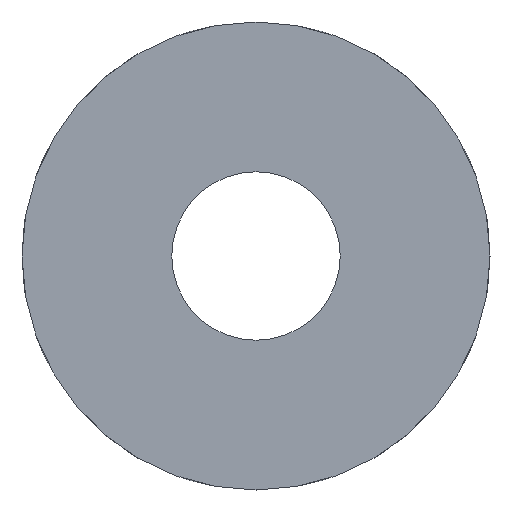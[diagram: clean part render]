
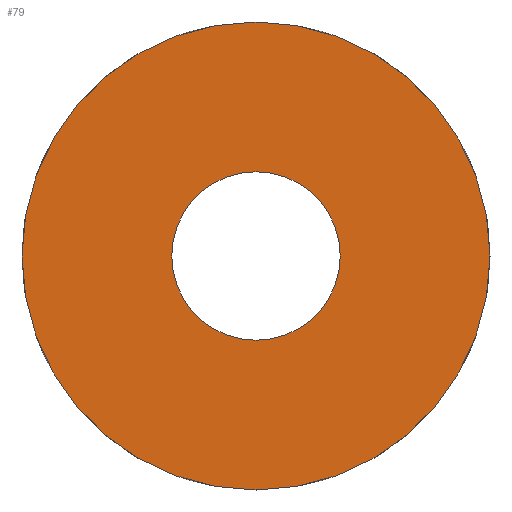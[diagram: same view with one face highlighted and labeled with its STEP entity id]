
A CAD part, front view. The second image highlights one B-rep face of the part: STEP entity #79.
In plain terms, the highlighted planar face has unit normal (0, -1, 0).
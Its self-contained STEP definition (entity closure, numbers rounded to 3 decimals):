
#6 = ORIENTED_EDGE ( 'NONE', *, *, #15, .T. ) ;
#14 = CARTESIAN_POINT ( 'NONE',  ( 0., -0.049, 0. ) ) ;
#15 = EDGE_CURVE ( 'NONE', #184, #142, #148, .T. ) ;
#16 = AXIS2_PLACEMENT_3D ( 'NONE', #132, #160, #240 ) ;
#24 = CIRCLE ( 'NONE', #198, 18. ) ;
#25 = ORIENTED_EDGE ( 'NONE', *, *, #199, .F. ) ;
#34 = AXIS2_PLACEMENT_3D ( 'NONE', #94, #116, #191 ) ;
#45 = CARTESIAN_POINT ( 'NONE',  ( 0., -0.049, 0. ) ) ;
#48 = CARTESIAN_POINT ( 'NONE',  ( 0., -0.049, -50. ) ) ;
#53 = EDGE_LOOP ( 'NONE', ( #25, #108 ) ) ;
#58 = ORIENTED_EDGE ( 'NONE', *, *, #76, .T. ) ;
#62 = FACE_BOUND ( 'NONE', #53, .T. ) ;
#65 = CARTESIAN_POINT ( 'NONE',  ( 0., -0.049, 18. ) ) ;
#69 = CARTESIAN_POINT ( 'NONE',  ( 0., -0.049, -18. ) ) ;
#76 = EDGE_CURVE ( 'NONE', #142, #184, #157, .T. ) ;
#78 = DIRECTION ( 'NONE',  ( 0., 0., -1. ) ) ;
#79 = ADVANCED_FACE ( 'NONE', ( #81, #62 ), #213, .T. ) ;
#81 = FACE_OUTER_BOUND ( 'NONE', #166, .T. ) ;
#94 = CARTESIAN_POINT ( 'NONE',  ( 0., -0.049, 0. ) ) ;
#99 = DIRECTION ( 'NONE',  ( 0., -1., 0. ) ) ;
#108 = ORIENTED_EDGE ( 'NONE', *, *, #193, .F. ) ;
#114 = VERTEX_POINT ( 'NONE', #65 ) ;
#116 = DIRECTION ( 'NONE',  ( 0., -1., 0. ) ) ;
#117 = VERTEX_POINT ( 'NONE', #69 ) ;
#129 = CARTESIAN_POINT ( 'NONE',  ( 0., -0.049, 50. ) ) ;
#132 = CARTESIAN_POINT ( 'NONE',  ( 0., -0.049, 0. ) ) ;
#142 = VERTEX_POINT ( 'NONE', #48 ) ;
#148 = CIRCLE ( 'NONE', #34, 50. ) ;
#157 = CIRCLE ( 'NONE', #183, 50. ) ;
#160 = DIRECTION ( 'NONE',  ( 0., -1., 0. ) ) ;
#166 = EDGE_LOOP ( 'NONE', ( #6, #58 ) ) ;
#174 = DIRECTION ( 'NONE',  ( 0., -1., 0. ) ) ;
#176 = CARTESIAN_POINT ( 'NONE',  ( 50., -0.049, 0. ) ) ;
#183 = AXIS2_PLACEMENT_3D ( 'NONE', #14, #174, #78 ) ;
#184 = VERTEX_POINT ( 'NONE', #129 ) ;
#191 = DIRECTION ( 'NONE',  ( 0., 0., -1. ) ) ;
#193 = EDGE_CURVE ( 'NONE', #114, #117, #24, .T. ) ;
#198 = AXIS2_PLACEMENT_3D ( 'NONE', #45, #201, #226 ) ;
#199 = EDGE_CURVE ( 'NONE', #117, #114, #218, .T. ) ;
#201 = DIRECTION ( 'NONE',  ( 0., -1., 0. ) ) ;
#213 = PLANE ( 'NONE',  #250 ) ;
#218 = CIRCLE ( 'NONE', #16, 18. ) ;
#226 = DIRECTION ( 'NONE',  ( 0., 0., -1. ) ) ;
#238 = DIRECTION ( 'NONE',  ( 0., 0., -1. ) ) ;
#240 = DIRECTION ( 'NONE',  ( 0., 0., -1. ) ) ;
#250 = AXIS2_PLACEMENT_3D ( 'NONE', #176, #99, #238 ) ;
